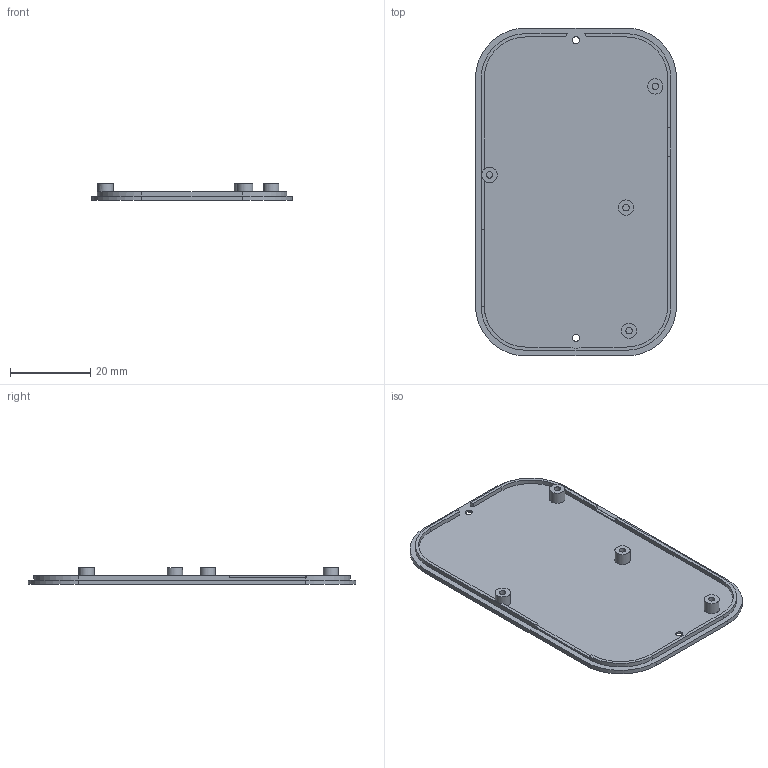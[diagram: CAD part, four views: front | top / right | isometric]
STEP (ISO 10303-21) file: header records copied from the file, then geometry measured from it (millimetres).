
FILE_DESCRIPTION(('FreeCAD Model'),'2;1');
FILE_NAME('Open CASCADE Shape Model','2026-09-22T11:13:16',('FreeCAD'),( 'FreeCAD'),'Open CASCADE STEP processor 7.8','FreeCAD','Unknown');
FILE_SCHEMA(('AUTOMOTIVE_DESIGN { 1 0 10303 214 1 1 1 1 }'));
Length unit declared in the file: millimetre
Products named in the file (1): Open CASCADE STEP translator 7.8 2
Bounding box: 50 x 81.5 x 4.2 mm (x, y, z)
Volume: 4621.2 mm3; surface area: 8825.1 mm2
Topology: 1 solids, 1 shells, 64 faces, 158 edges, 106 vertices
Faces by surface type: plane 37, cylinder 27
Full cylindrical faces by diameter (mm): 1.6 x4, 1.8 x2, 3.3 x2, 3.8 x4
Entity records: 1936 total; most frequent: DIRECTION 348, CARTESIAN_POINT 329, ORIENTED_EDGE 316, EDGE_CURVE 158, AXIS2_PLACEMENT_3D 125, VERTEX_POINT 106, LINE 98, VECTOR 98
